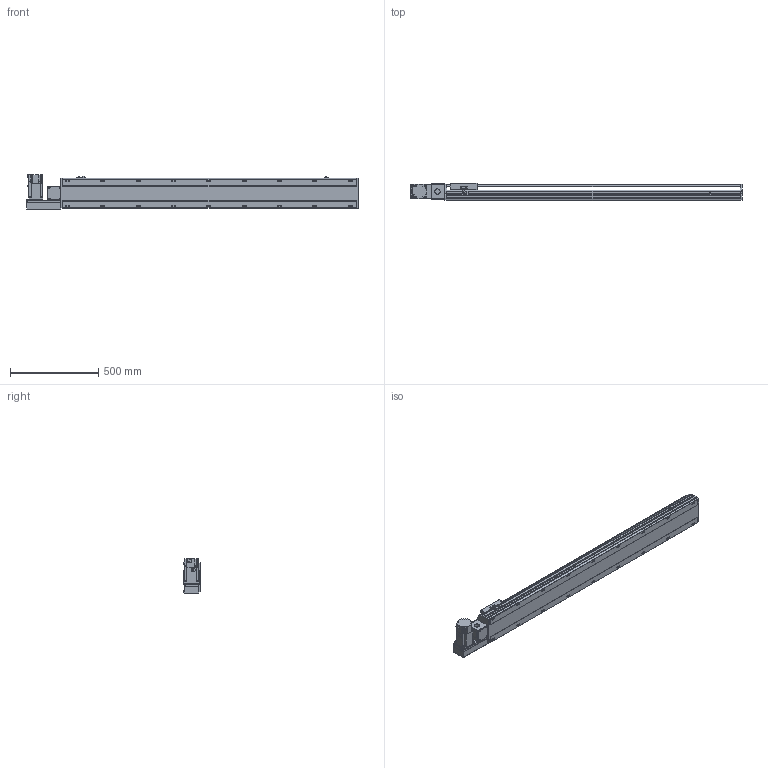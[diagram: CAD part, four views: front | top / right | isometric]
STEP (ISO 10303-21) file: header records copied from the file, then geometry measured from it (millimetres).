
FILE_DESCRIPTION( ( 'STEP AP214' ), '1' );
FILE_NAME( 'x:/temp/worker_3/temp/exporttempdir_5796_108_7pLJR/format_0/PBS170-P40-S1400-L-T75-C1-N(0).stp', '2022-06-07T06:55:50', ( 'License CC BY-ND 4.0' ), ( 'CADENAS' ), ' ', 'PARTsolutions', ' ' );
FILE_SCHEMA( ( 'AUTOMOTIVE_DESIGN { 1 0 10303 214 1 1 1 1 }' ) );
Length unit declared in the file: millimetre
Products named in the file (7): PBS170-P40-S1400-L-T75-C1-N(0); _PBS170-S1400()_body; _PBS170T-L_motors; _T75-p1; _PBS170_sliser; _PBS170_plant; _PBS170_sensor
Assembly tree (8 placements, depth 2):
  PBS170-P40-S1400-L-T75-C1-N(0)
    _PBS170-S1400()_body
    _PBS170T-L_motors
    _T75-p1
    _PBS170_sliser
    _PBS170_plant
    _PBS170_sensor  x3
Bounding box: 1878 x 97 x 197.3 mm (x, y, z)
Volume: 13842785.7 mm3; surface area: 1783161.1 mm2
Topology: 8 solids, 8 shells, 1098 faces, 2915 edges, 1900 vertices
Faces by surface type: plane 693, cylinder 347, cone 48, sphere 8, torus 2
Full cylindrical faces by diameter (mm): 3.242 x4, 4 x2, 4.4 x4, 4.5 x6, 4.917 x4, 6 x9, 6.647 x26, 7 x2, 7.5 x4, 8 x8, 8.5 x18, 10 x4, 10.5 x18, 11 x2, 30 x2, 40 x1, 70 x1
Entity records: 40382 total; most frequent: CARTESIAN_POINT 6389, DIRECTION 5370, ORIENTED_EDGE 5088, EDGE_CURVE 2544, AXIS2_PLACEMENT_3D 1867, VERTEX_POINT 1754, LINE 1636, VECTOR 1636
